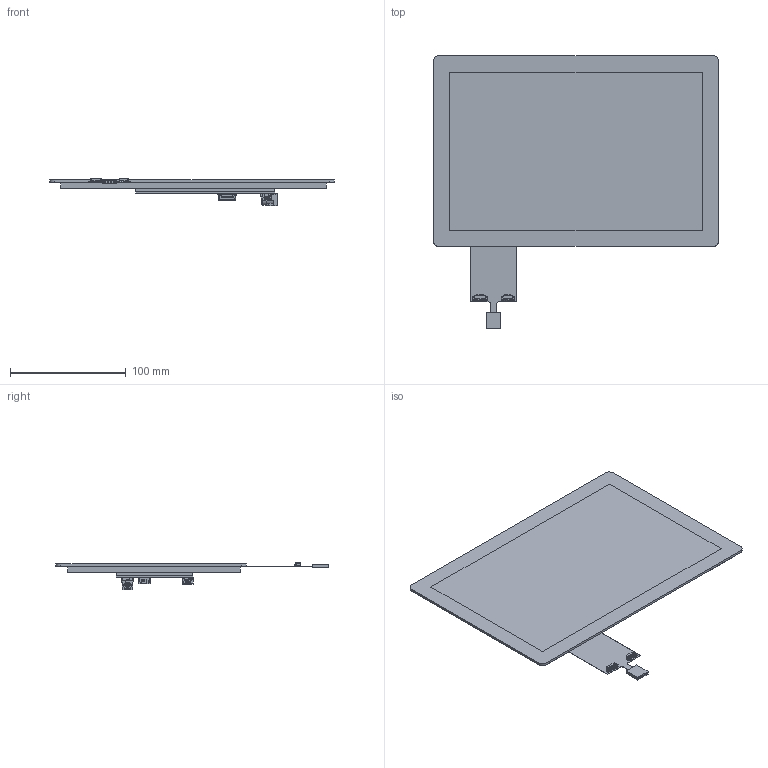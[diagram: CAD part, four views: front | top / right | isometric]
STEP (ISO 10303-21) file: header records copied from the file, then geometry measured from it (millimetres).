
FILE_DESCRIPTION (( 'STEP AP214' ), '1' );
FILE_NAME ('PDC101W-001 REV P1 STEP.STEP', '2025-10-23T16:27:26', ( '' ), ( '' ), 'SwSTEP 2.0', 'SolidWorks 2020', '' );
FILE_SCHEMA (( 'AUTOMOTIVE_DESIGN' ));
Length unit declared in the file: millimetre
Products named in the file (13): PJ-002AH-SMT-TR; S3B-PH-SM4-TB_LF__SN_; S3B-PH-SM4-TB(LF)(SN)_5; PDC101W-001 REV P1 STEP; S3B-PH-SM4-TB(LF)(SN)_2; PDC101W-001 DISPLAY; S3B-PH-SM4-TB(LF)(SN); 10029449-111RLF; 532610571; S3B-PH-SM4-TB(LF)(SN)_3; S3B-PH-SM4-TB(LF)(SN)_4; S3B-PH-SM4-TB(LF)(SN)_6; 532610671
Assembly tree (12 placements, depth 3):
  PDC101W-001 REV P1 STEP
    PDC101W-001 DISPLAY
    532610671
    532610571
    PJ-002AH-SMT-TR
    S3B-PH-SM4-TB_LF__SN_
      S3B-PH-SM4-TB(LF)(SN)_3
      S3B-PH-SM4-TB(LF)(SN)_6
      S3B-PH-SM4-TB(LF)(SN)_4
      S3B-PH-SM4-TB(LF)(SN)
      S3B-PH-SM4-TB(LF)(SN)_2
      S3B-PH-SM4-TB(LF)(SN)_5
    10029449-111RLF
Bounding box: 245.96 x 235.16 x 23.8 mm (x, y, z)
Volume: 298598.3 mm3; surface area: 265445.1 mm2
Topology: 16 solids, 20 shells, 2663 faces, 7422 edges, 4756 vertices
Faces by surface type: plane 2140, cylinder 405, bspline 82, cone 36
Entity records: 88432 total; most frequent: CARTESIAN_POINT 18861, ORIENTED_EDGE 14678, DIRECTION 12702, EDGE_CURVE 7398, VECTOR 5850, LINE 5850, VERTEX_POINT 4756, AXIS2_PLACEMENT_3D 3426
